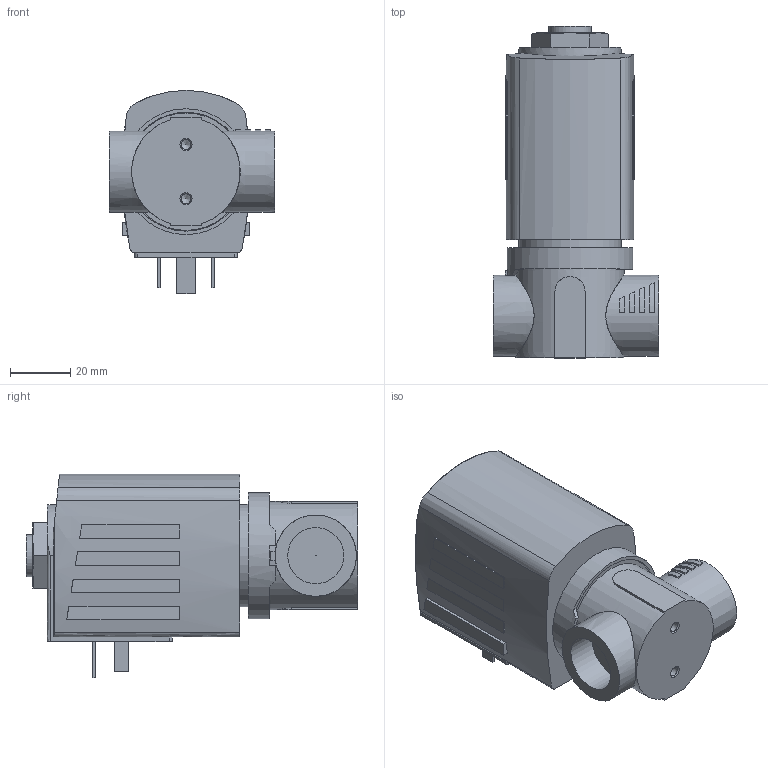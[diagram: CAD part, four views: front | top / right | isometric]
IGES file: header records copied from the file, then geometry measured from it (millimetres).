
Start section: Data from Parasolid IGES Translator 26.0.171, Copyright(c) 2006 Siemens PLM Software. All Rights Reserved.
Global section: file name: 6240-369792-2_2-way_solenoid_valve__pilot-controlled.igs; native system: By Siemens PLM Incorporated; preprocessor: XPlus GENERIC/IGES 26.0.171; author: Noname; organization: Noname; date: 20240509.230219; units: millimetre
Bounding box: 55 x 110.2 x 67.5 mm (x, y, z)
Surface area: 28938.5 mm2 (no closed solid volume)
Topology: 0 solids, 0 shells, 165 faces, 798 edges, 781 vertices
Faces by surface type: extrusion 117, revolution 48
